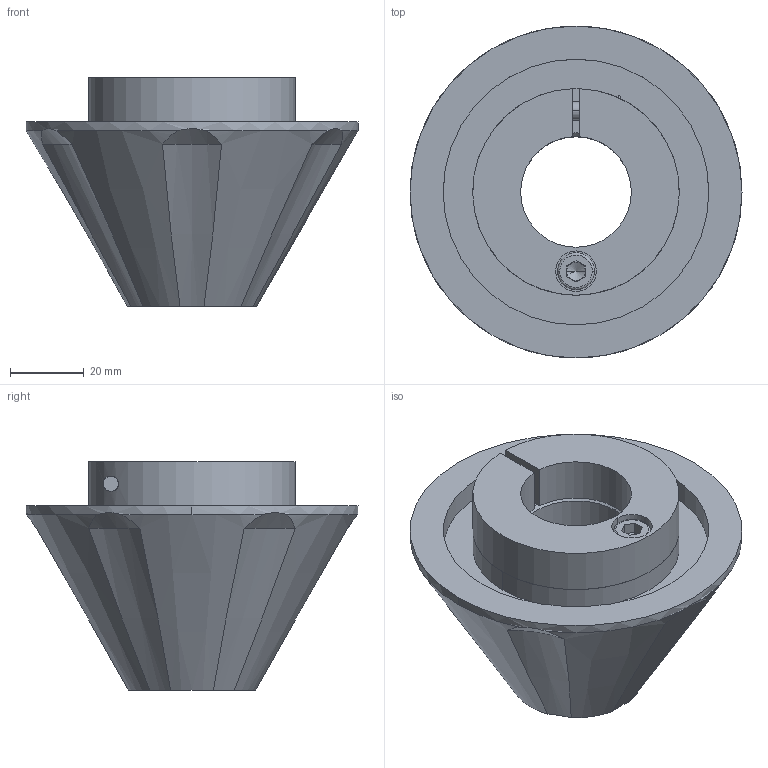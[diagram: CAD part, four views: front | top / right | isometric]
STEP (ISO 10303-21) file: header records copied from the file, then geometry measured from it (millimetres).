
FILE_DESCRIPTION (( 'STEP AP214' ), '1' );
FILE_NAME ('CL-30-F70.STEP', '2023-03-07T08:18:00', ( '' ), ( '' ), 'SwSTEP 2.0', 'SolidWorks 2022', '' );
FILE_SCHEMA (( 'AUTOMOTIVE_DESIGN' ));
Length unit declared in the file: millimetre
Products named in the file (1): CL-30-F70
Bounding box: 90 x 90 x 62 mm (x, y, z)
Volume: 142109 mm3; surface area: 33651.3 mm2
Topology: 4 solids, 4 shells, 111 faces, 260 edges, 160 vertices
Faces by surface type: plane 40, cylinder 30, cone 27, bspline 14
Entity records: 4464 total; most frequent: CARTESIAN_POINT 1774, ORIENTED_EDGE 508, DIRECTION 493, EDGE_CURVE 254, AXIS2_PLACEMENT_3D 197, VERTEX_POINT 160, EDGE_LOOP 128, FACE_OUTER_BOUND 111
